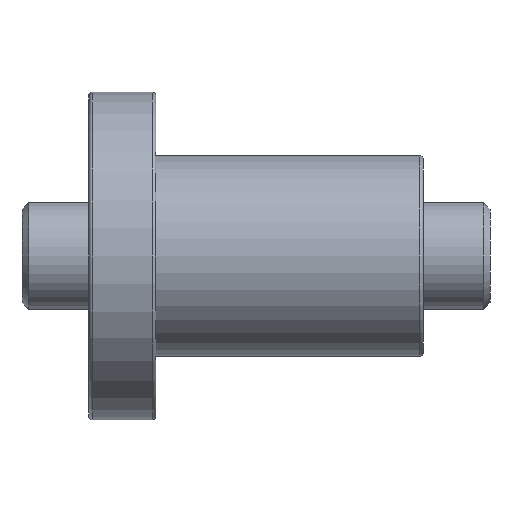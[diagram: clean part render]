
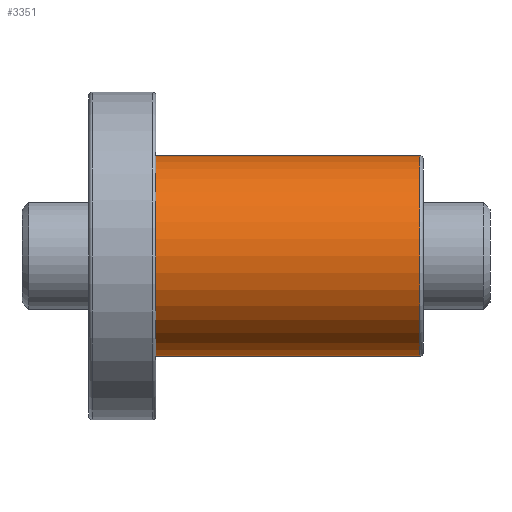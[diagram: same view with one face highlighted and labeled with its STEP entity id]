
A CAD part, front view. The second image highlights one B-rep face of the part: STEP entity #3351.
In plain terms, the highlighted cylindrical face has radius 15 mm (diameter 30 mm), a partial arc.
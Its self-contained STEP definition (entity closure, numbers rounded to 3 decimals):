
#26 = CARTESIAN_POINT ( 'NONE',  ( 10., 0., 0. ) ) ;
#180 = LINE ( 'NONE', #2665, #3263 ) ;
#252 = CARTESIAN_POINT ( 'NONE',  ( 50., 0., 0. ) ) ;
#315 = FACE_OUTER_BOUND ( 'NONE', #3572, .T. ) ;
#324 = CARTESIAN_POINT ( 'NONE',  ( 49.5, 0., 0. ) ) ;
#405 = CIRCLE ( 'NONE', #670, 15. ) ;
#457 = ORIENTED_EDGE ( 'NONE', *, *, #2224, .F. ) ;
#585 = DIRECTION ( 'NONE',  ( -1., 0., 0. ) ) ;
#670 = AXIS2_PLACEMENT_3D ( 'NONE', #26, #2126, #1553 ) ;
#683 = EDGE_CURVE ( 'NONE', #3568, #1238, #1922, .T. ) ;
#966 = DIRECTION ( 'NONE',  ( -1., 0., 0. ) ) ;
#1229 = AXIS2_PLACEMENT_3D ( 'NONE', #324, #1497, #3296 ) ;
#1238 = VERTEX_POINT ( 'NONE', #2233 ) ;
#1245 = CYLINDRICAL_SURFACE ( 'NONE', #1727, 15. ) ;
#1397 = VECTOR ( 'NONE', #966, 1000. ) ;
#1497 = DIRECTION ( 'NONE',  ( -1., 0., 0. ) ) ;
#1553 = DIRECTION ( 'NONE',  ( 0., 0., -1. ) ) ;
#1727 = AXIS2_PLACEMENT_3D ( 'NONE', #252, #585, #3269 ) ;
#1880 = ORIENTED_EDGE ( 'NONE', *, *, #2978, .T. ) ;
#1922 = CIRCLE ( 'NONE', #1229, 15. ) ;
#2126 = DIRECTION ( 'NONE',  ( 1., 0., 0. ) ) ;
#2165 = CARTESIAN_POINT ( 'NONE',  ( 50., 0., -15. ) ) ;
#2224 = EDGE_CURVE ( 'NONE', #3568, #3471, #2598, .T. ) ;
#2233 = CARTESIAN_POINT ( 'NONE',  ( 49.5, 0., 15. ) ) ;
#2359 = DIRECTION ( 'NONE',  ( -1., 0., 0. ) ) ;
#2444 = ORIENTED_EDGE ( 'NONE', *, *, #683, .T. ) ;
#2569 = VERTEX_POINT ( 'NONE', #2955 ) ;
#2598 = LINE ( 'NONE', #2165, #1397 ) ;
#2665 = CARTESIAN_POINT ( 'NONE',  ( 50., 0., 15. ) ) ;
#2676 = EDGE_CURVE ( 'NONE', #2569, #3471, #405, .T. ) ;
#2921 = CARTESIAN_POINT ( 'NONE',  ( 10., 0., -15. ) ) ;
#2940 = CARTESIAN_POINT ( 'NONE',  ( 49.5, 0., -15. ) ) ;
#2955 = CARTESIAN_POINT ( 'NONE',  ( 10., 0., 15. ) ) ;
#2978 = EDGE_CURVE ( 'NONE', #1238, #2569, #180, .T. ) ;
#3136 = ORIENTED_EDGE ( 'NONE', *, *, #2676, .T. ) ;
#3263 = VECTOR ( 'NONE', #2359, 1000. ) ;
#3269 = DIRECTION ( 'NONE',  ( 0., 0., 1. ) ) ;
#3296 = DIRECTION ( 'NONE',  ( 0., 0., -1. ) ) ;
#3351 = ADVANCED_FACE ( 'NONE', ( #315 ), #1245, .T. ) ;
#3471 = VERTEX_POINT ( 'NONE', #2921 ) ;
#3568 = VERTEX_POINT ( 'NONE', #2940 ) ;
#3572 = EDGE_LOOP ( 'NONE', ( #457, #2444, #1880, #3136 ) ) ;
